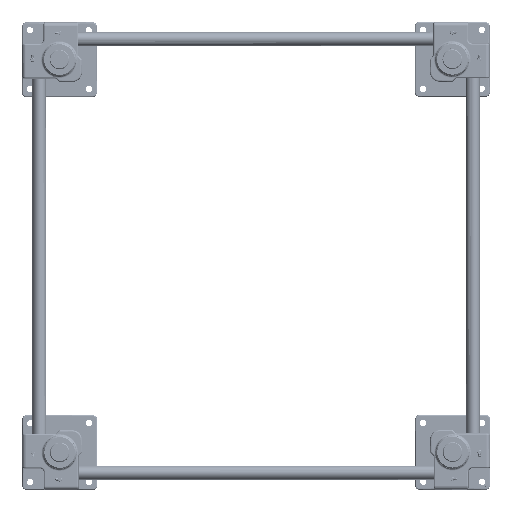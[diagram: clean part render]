
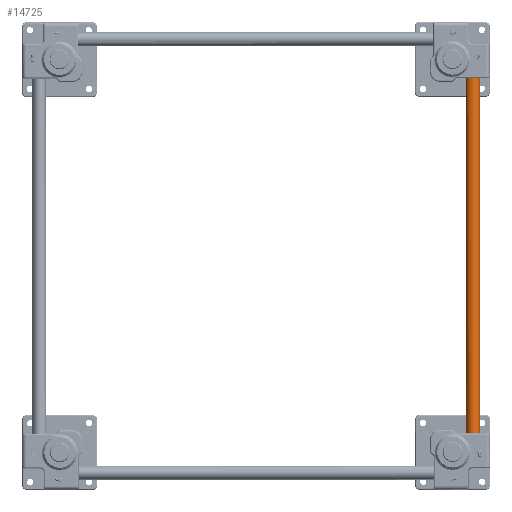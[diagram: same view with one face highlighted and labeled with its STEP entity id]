
A CAD part, top view. The second image highlights one B-rep face of the part: STEP entity #14725.
In plain terms, the highlighted cylindrical face has radius 17.5 mm (diameter 35 mm), a full revolution.
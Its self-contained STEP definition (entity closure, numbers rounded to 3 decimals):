
#14725=ADVANCED_FACE('',(#35629,#35630),#35631,.T.);
#35629=FACE_OUTER_BOUND('',#60564,.T.);
#35630=FACE_OUTER_BOUND('',#60565,.T.);
#35631=CYLINDRICAL_SURFACE('',#60566,17.5);
#60564=EDGE_LOOP('',(#142430));
#60565=EDGE_LOOP('',(#142431));
#60566=AXIS2_PLACEMENT_3D('',#142432,#142433,#142434);
#142430=ORIENTED_EDGE('',*,*,#168437,.T.);
#142431=ORIENTED_EDGE('',*,*,#168434,.T.);
#142432=CARTESIAN_POINT('',(0.0,0.0,50.0));
#142433=DIRECTION('',(0.0,0.0,-1.0));
#142434=DIRECTION('',(-1.0,0.0,0.0));
#168434=EDGE_CURVE('',#211406,#211406,#211407,.F.);
#168437=EDGE_CURVE('',#211412,#211412,#211413,.T.);
#211406=VERTEX_POINT('',#285454);
#211407=CIRCLE('',#285455,17.5);
#211412=VERTEX_POINT('',#285460);
#211413=CIRCLE('',#285461,17.5);
#285454=CARTESIAN_POINT('',(17.5,0.0,49.0));
#285455=AXIS2_PLACEMENT_3D('',#317762,#317763,#317764);
#285460=CARTESIAN_POINT('',(17.5,0.0,-1007.0));
#285461=AXIS2_PLACEMENT_3D('',#317771,#317772,#317773);
#317762=CARTESIAN_POINT('',(0.0,0.0,49.0));
#317763=DIRECTION('',(0.0,0.0,1.0));
#317764=DIRECTION('',(1.0,0.0,0.0));
#317771=CARTESIAN_POINT('',(0.0,0.0,-1007.0));
#317772=DIRECTION('',(0.0,0.0,1.0));
#317773=DIRECTION('',(1.0,0.0,0.0));
